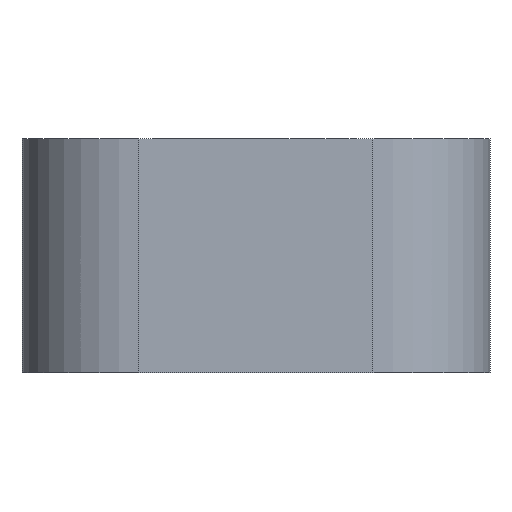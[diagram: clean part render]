
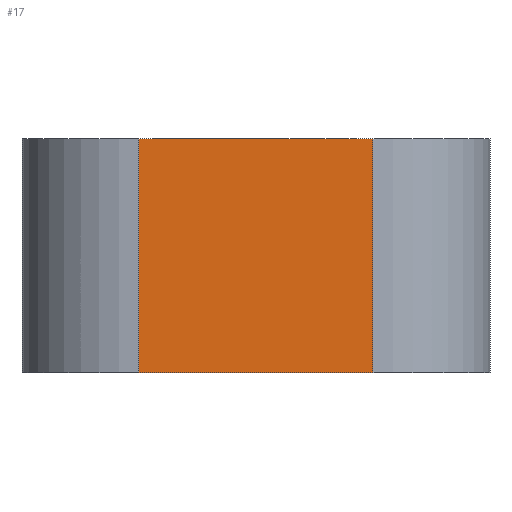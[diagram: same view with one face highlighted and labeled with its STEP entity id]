
A CAD part, front view. The second image highlights one B-rep face of the part: STEP entity #17.
In plain terms, the highlighted planar face has unit normal (0, -1, 0).
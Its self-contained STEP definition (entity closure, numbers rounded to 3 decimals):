
#17 = ADVANCED_FACE('',(#18),#32,.F.);
#18 = FACE_BOUND('',#19,.F.);
#19 = EDGE_LOOP('',(#20,#55,#83,#111));
#20 = ORIENTED_EDGE('',*,*,#21,.F.);
#21 = EDGE_CURVE('',#22,#24,#26,.T.);
#22 = VERTEX_POINT('',#23);
#23 = CARTESIAN_POINT('',(-2.,-20.36,0.));
#24 = VERTEX_POINT('',#25);
#25 = CARTESIAN_POINT('',(2.,-20.36,0.));
#26 = SURFACE_CURVE('',#27,(#31,#43),.PCURVE_S1.);
#27 = LINE('',#28,#29);
#28 = CARTESIAN_POINT('',(-4.,-20.36,0.));
#29 = VECTOR('',#30,1.);
#30 = DIRECTION('',(1.,0.,0.));
#31 = PCURVE('',#32,#37);
#32 = PLANE('',#33);
#33 = AXIS2_PLACEMENT_3D('',#34,#35,#36);
#34 = CARTESIAN_POINT('',(-4.,-20.36,0.));
#35 = DIRECTION('',(0.,1.,0.));
#36 = DIRECTION('',(1.,0.,0.));
#37 = DEFINITIONAL_REPRESENTATION('',(#38),#42);
#38 = LINE('',#39,#40);
#39 = CARTESIAN_POINT('',(0.,0.));
#40 = VECTOR('',#41,1.);
#41 = DIRECTION('',(1.,0.));
#42 = ( GEOMETRIC_REPRESENTATION_CONTEXT(2) 
PARAMETRIC_REPRESENTATION_CONTEXT() REPRESENTATION_CONTEXT('2D SPACE',''
  ) );
#43 = PCURVE('',#44,#49);
#44 = PLANE('',#45);
#45 = AXIS2_PLACEMENT_3D('',#46,#47,#48);
#46 = CARTESIAN_POINT('',(0.,0.,0.));
#47 = DIRECTION('',(0.,0.,1.));
#48 = DIRECTION('',(1.,0.,-0.));
#49 = DEFINITIONAL_REPRESENTATION('',(#50),#54);
#50 = LINE('',#51,#52);
#51 = CARTESIAN_POINT('',(-4.,-20.36));
#52 = VECTOR('',#53,1.);
#53 = DIRECTION('',(1.,0.));
#54 = ( GEOMETRIC_REPRESENTATION_CONTEXT(2) 
PARAMETRIC_REPRESENTATION_CONTEXT() REPRESENTATION_CONTEXT('2D SPACE',''
  ) );
#55 = ORIENTED_EDGE('',*,*,#56,.T.);
#56 = EDGE_CURVE('',#22,#57,#59,.T.);
#57 = VERTEX_POINT('',#58);
#58 = CARTESIAN_POINT('',(-2.,-20.36,4.));
#59 = SURFACE_CURVE('',#60,(#64,#71),.PCURVE_S1.);
#60 = LINE('',#61,#62);
#61 = CARTESIAN_POINT('',(-2.,-20.36,0.));
#62 = VECTOR('',#63,1.);
#63 = DIRECTION('',(0.,0.,1.));
#64 = PCURVE('',#32,#65);
#65 = DEFINITIONAL_REPRESENTATION('',(#66),#70);
#66 = LINE('',#67,#68);
#67 = CARTESIAN_POINT('',(2.,0.));
#68 = VECTOR('',#69,1.);
#69 = DIRECTION('',(0.,-1.));
#70 = ( GEOMETRIC_REPRESENTATION_CONTEXT(2) 
PARAMETRIC_REPRESENTATION_CONTEXT() REPRESENTATION_CONTEXT('2D SPACE',''
  ) );
#71 = PCURVE('',#72,#77);
#72 = CYLINDRICAL_SURFACE('',#73,2.);
#73 = AXIS2_PLACEMENT_3D('',#74,#75,#76);
#74 = CARTESIAN_POINT('',(-2.,-18.36,0.));
#75 = DIRECTION('',(0.,0.,1.));
#76 = DIRECTION('',(0.,-1.,0.));
#77 = DEFINITIONAL_REPRESENTATION('',(#78),#82);
#78 = LINE('',#79,#80);
#79 = CARTESIAN_POINT('',(-0.,0.));
#80 = VECTOR('',#81,1.);
#81 = DIRECTION('',(-0.,1.));
#82 = ( GEOMETRIC_REPRESENTATION_CONTEXT(2) 
PARAMETRIC_REPRESENTATION_CONTEXT() REPRESENTATION_CONTEXT('2D SPACE',''
  ) );
#83 = ORIENTED_EDGE('',*,*,#84,.T.);
#84 = EDGE_CURVE('',#57,#85,#87,.T.);
#85 = VERTEX_POINT('',#86);
#86 = CARTESIAN_POINT('',(2.,-20.36,4.));
#87 = SURFACE_CURVE('',#88,(#92,#99),.PCURVE_S1.);
#88 = LINE('',#89,#90);
#89 = CARTESIAN_POINT('',(-4.,-20.36,4.));
#90 = VECTOR('',#91,1.);
#91 = DIRECTION('',(1.,0.,0.));
#92 = PCURVE('',#32,#93);
#93 = DEFINITIONAL_REPRESENTATION('',(#94),#98);
#94 = LINE('',#95,#96);
#95 = CARTESIAN_POINT('',(0.,-4.));
#96 = VECTOR('',#97,1.);
#97 = DIRECTION('',(1.,0.));
#98 = ( GEOMETRIC_REPRESENTATION_CONTEXT(2) 
PARAMETRIC_REPRESENTATION_CONTEXT() REPRESENTATION_CONTEXT('2D SPACE',''
  ) );
#99 = PCURVE('',#100,#105);
#100 = PLANE('',#101);
#101 = AXIS2_PLACEMENT_3D('',#102,#103,#104);
#102 = CARTESIAN_POINT('',(0.,0.,4.));
#103 = DIRECTION('',(0.,0.,1.));
#104 = DIRECTION('',(1.,0.,-0.));
#105 = DEFINITIONAL_REPRESENTATION('',(#106),#110);
#106 = LINE('',#107,#108);
#107 = CARTESIAN_POINT('',(-4.,-20.36));
#108 = VECTOR('',#109,1.);
#109 = DIRECTION('',(1.,0.));
#110 = ( GEOMETRIC_REPRESENTATION_CONTEXT(2) 
PARAMETRIC_REPRESENTATION_CONTEXT() REPRESENTATION_CONTEXT('2D SPACE',''
  ) );
#111 = ORIENTED_EDGE('',*,*,#112,.F.);
#112 = EDGE_CURVE('',#24,#85,#113,.T.);
#113 = SURFACE_CURVE('',#114,(#118,#125),.PCURVE_S1.);
#114 = LINE('',#115,#116);
#115 = CARTESIAN_POINT('',(2.,-20.36,0.));
#116 = VECTOR('',#117,1.);
#117 = DIRECTION('',(0.,0.,1.));
#118 = PCURVE('',#32,#119);
#119 = DEFINITIONAL_REPRESENTATION('',(#120),#124);
#120 = LINE('',#121,#122);
#121 = CARTESIAN_POINT('',(6.,0.));
#122 = VECTOR('',#123,1.);
#123 = DIRECTION('',(0.,-1.));
#124 = ( GEOMETRIC_REPRESENTATION_CONTEXT(2) 
PARAMETRIC_REPRESENTATION_CONTEXT() REPRESENTATION_CONTEXT('2D SPACE',''
  ) );
#125 = PCURVE('',#126,#131);
#126 = CYLINDRICAL_SURFACE('',#127,2.);
#127 = AXIS2_PLACEMENT_3D('',#128,#129,#130);
#128 = CARTESIAN_POINT('',(2.,-18.36,0.));
#129 = DIRECTION('',(0.,0.,1.));
#130 = DIRECTION('',(0.,-1.,0.));
#131 = DEFINITIONAL_REPRESENTATION('',(#132),#136);
#132 = LINE('',#133,#134);
#133 = CARTESIAN_POINT('',(0.,0.));
#134 = VECTOR('',#135,1.);
#135 = DIRECTION('',(0.,1.));
#136 = ( GEOMETRIC_REPRESENTATION_CONTEXT(2) 
PARAMETRIC_REPRESENTATION_CONTEXT() REPRESENTATION_CONTEXT('2D SPACE',''
  ) );
